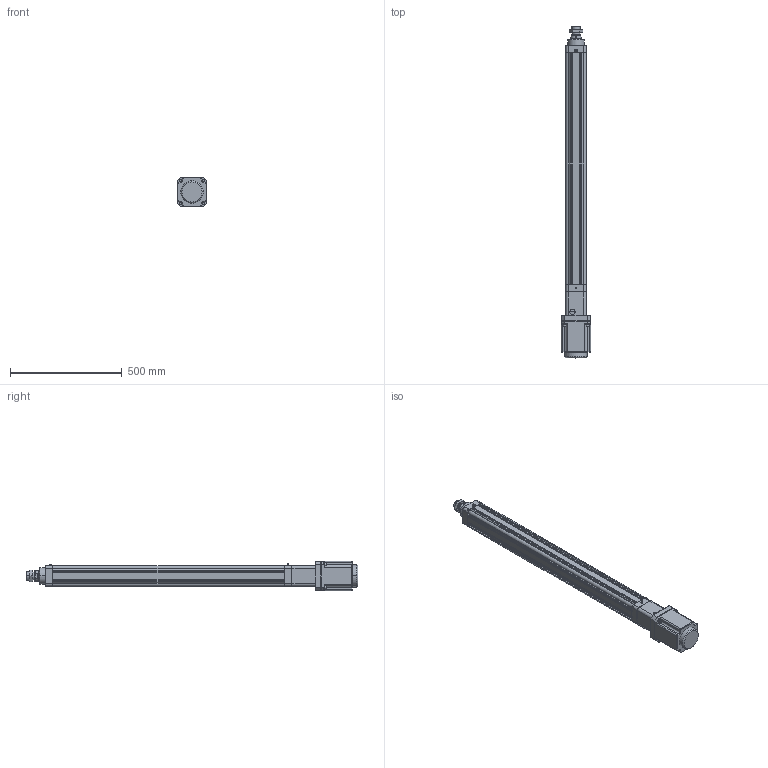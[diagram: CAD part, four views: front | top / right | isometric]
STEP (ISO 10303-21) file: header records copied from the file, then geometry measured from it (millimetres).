
FILE_DESCRIPTION((''),'2;1');
FILE_NAME('HE80-D-P_ASM','2020-04-01T',('ASUS20200'),(''),'CREO PARAMETRIC BY PTC INC, 2014190','CREO PARAMETRIC BY PTC INC, 2014190','');
FILE_SCHEMA(('CONFIG_CONTROL_DESIGN'));
Length unit declared in the file: millimetre
Products named in the file (22): HE80-D-P-001-X1; HE80-D-P-002-X1; HE80-D-P-003-X1; 30304J; YZ-M6X1; SLM-01; JDB506030; HE80-100-D-P-X1_ASM; HE80-D-009-X1; HE80-D-010-X1-130N; M10X110; SKT-20; M8X20; 130ST-M10010; JX6X6X40; TD-8; M8X40; HE80-D-P-005-X1; HE80-D-P-004-X1; HE80-D-P-008-X1; LGLM-M10-25; HE80-D-P_ASM
Assembly tree (38 placements, depth 3):
  HE80-D-P_ASM
    HE80-100-D-P-X1_ASM
      HE80-D-P-001-X1
      HE80-D-P-002-X1
      HE80-D-P-003-X1
      30304J  x2
      YZ-M6X1
      SLM-01
      JDB506030
    HE80-D-009-X1
    HE80-D-010-X1-130N
    M10X110  x4
    SKT-20  x2
    M8X20  x4
    130ST-M10010
    JX6X6X40
    TD-8  x4
    M8X40  x4
    HE80-D-P-005-X1
    HE80-D-P-004-X1
    HE80-D-P-008-X1
    LGLM-M10-25  x4
Bounding box: 130 x 1486 x 130.01 mm (x, y, z)
Volume: 6485460.4 mm3; surface area: 1645919.5 mm2
Topology: 37 solids, 61 shells, 1689 faces, 3958 edges, 2430 vertices
Faces by surface type: plane 568, cylinder 540, cone 453, torus 94, sphere 30, bspline 4
Entity records: 39112 total; most frequent: CARTESIAN_POINT 7620, DIRECTION 7025, ORIENTED_EDGE 6036, EDGE_CURVE 3064, AXIS2_PLACEMENT_3D 2757, VERTEX_POINT 1886, EDGE_LOOP 1516, VECTOR 1511
